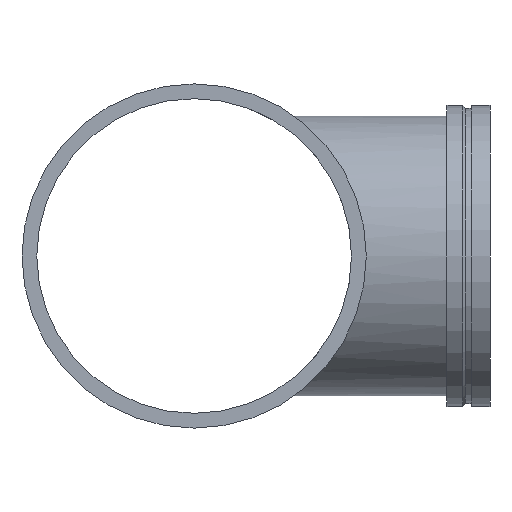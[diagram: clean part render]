
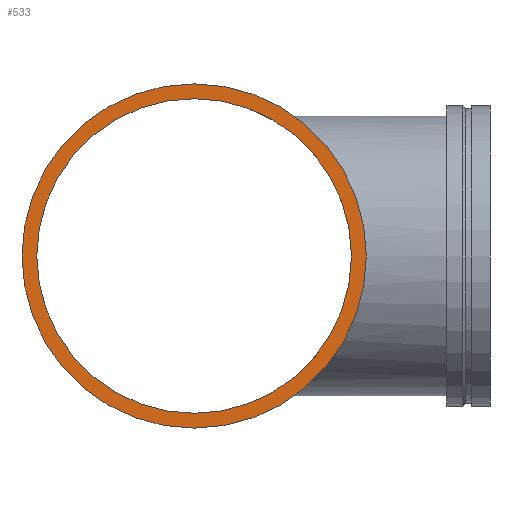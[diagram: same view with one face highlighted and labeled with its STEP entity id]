
A CAD part, left-side view. The second image highlights one B-rep face of the part: STEP entity #533.
In plain terms, the highlighted planar face has unit normal (-1, 0, 0).
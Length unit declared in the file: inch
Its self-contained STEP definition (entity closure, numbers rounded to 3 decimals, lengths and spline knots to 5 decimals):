
#58=FACE_BOUND('',#128,.T.);
#67=PLANE('',#626);
#92=FACE_OUTER_BOUND('',#127,.T.);
#127=EDGE_LOOP('',(#465,#466));
#128=EDGE_LOOP('',(#467,#468));
#151=CIRCLE('',#587,16.);
#152=CIRCLE('',#588,16.);
#175=CIRCLE('',#624,14.625);
#176=CIRCLE('',#625,14.625);
#239=VERTEX_POINT('',#1161);
#240=VERTEX_POINT('',#1163);
#263=VERTEX_POINT('',#1230);
#264=VERTEX_POINT('',#1232);
#299=EDGE_CURVE('',#239,#240,#151,.T.);
#300=EDGE_CURVE('',#240,#239,#152,.T.);
#331=EDGE_CURVE('',#264,#263,#175,.T.);
#332=EDGE_CURVE('',#263,#264,#176,.T.);
#465=ORIENTED_EDGE('',*,*,#300,.F.);
#466=ORIENTED_EDGE('',*,*,#299,.F.);
#467=ORIENTED_EDGE('',*,*,#331,.T.);
#468=ORIENTED_EDGE('',*,*,#332,.T.);
#533=ADVANCED_FACE('',(#92,#58),#67,.T.);
#587=AXIS2_PLACEMENT_3D('',#1164,#716,#717);
#588=AXIS2_PLACEMENT_3D('',#1165,#718,#719);
#624=AXIS2_PLACEMENT_3D('',#1233,#798,#799);
#625=AXIS2_PLACEMENT_3D('',#1234,#800,#801);
#626=AXIS2_PLACEMENT_3D('',#1235,#802,#803);
#716=DIRECTION('center_axis',(1.,0.,0.));
#717=DIRECTION('ref_axis',(0.,0.,1.));
#718=DIRECTION('center_axis',(1.,0.,0.));
#719=DIRECTION('ref_axis',(0.,0.,1.));
#798=DIRECTION('center_axis',(1.,0.,0.));
#799=DIRECTION('ref_axis',(0.,0.,1.));
#800=DIRECTION('center_axis',(1.,0.,0.));
#801=DIRECTION('ref_axis',(0.,0.,1.));
#802=DIRECTION('center_axis',(-1.,0.,0.));
#803=DIRECTION('ref_axis',(0.,0.,-1.));
#1161=CARTESIAN_POINT('',(-28.,16.,0.));
#1163=CARTESIAN_POINT('',(-28.,-16.,0.));
#1164=CARTESIAN_POINT('Origin',(-28.,0.,0.));
#1165=CARTESIAN_POINT('Origin',(-28.,0.,0.));
#1230=CARTESIAN_POINT('',(-28.,14.625,0.));
#1232=CARTESIAN_POINT('',(-28.,-14.625,0.));
#1233=CARTESIAN_POINT('Origin',(-28.,0.,0.));
#1234=CARTESIAN_POINT('Origin',(-28.,0.,0.));
#1235=CARTESIAN_POINT('Origin',(-28.,-16.,0.));
